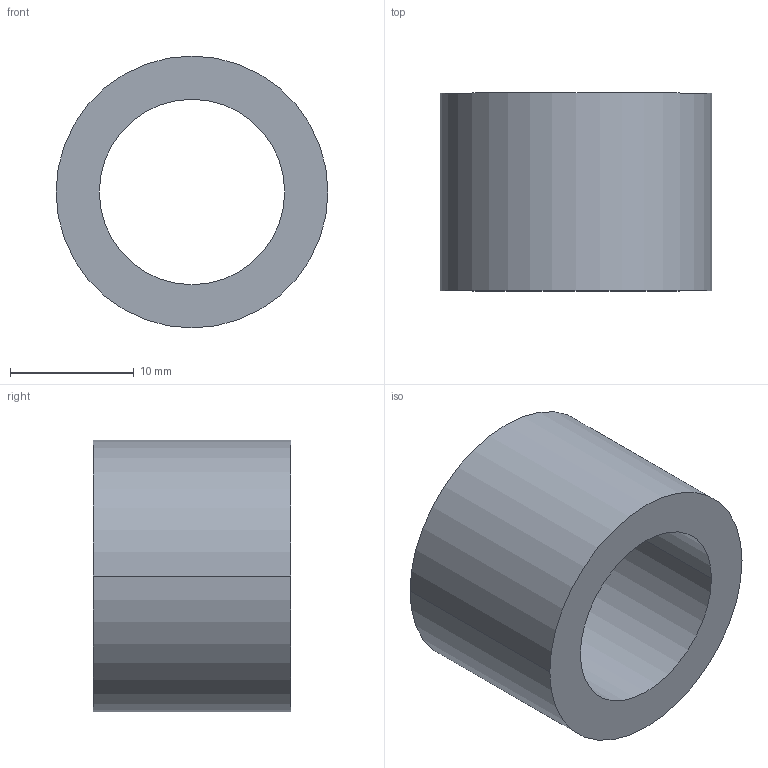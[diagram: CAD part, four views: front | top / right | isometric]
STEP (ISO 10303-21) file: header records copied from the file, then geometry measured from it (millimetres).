
FILE_DESCRIPTION (( 'STEP AP203' ), '1' );
FILE_NAME ('30800.WPP22F15.0.step', '2019-01-23T22:44:58', ( '' ), ( '' ), 'SwSTEP 2.0', 'SolidWorks 2017', '' );
FILE_SCHEMA (( 'CONFIG_CONTROL_DESIGN' ));
Length unit declared in the file: millimetre
Products named in the file (1): 30800.WPP22F15.0
Bounding box: 22 x 16 x 22 mm (x, y, z)
Volume: 3211.8 mm3; surface area: 2228 mm2
Topology: 1 solids, 1 shells, 8 faces, 16 edges, 10 vertices
Faces by surface type: cylinder 4, torus 2, plane 2
Entity records: 297 total; most frequent: DIRECTION 46, CARTESIAN_POINT 35, ORIENTED_EDGE 32, AXIS2_PLACEMENT_3D 21, EDGE_CURVE 16, CIRCLE 12, EDGE_LOOP 10, VERTEX_POINT 10
